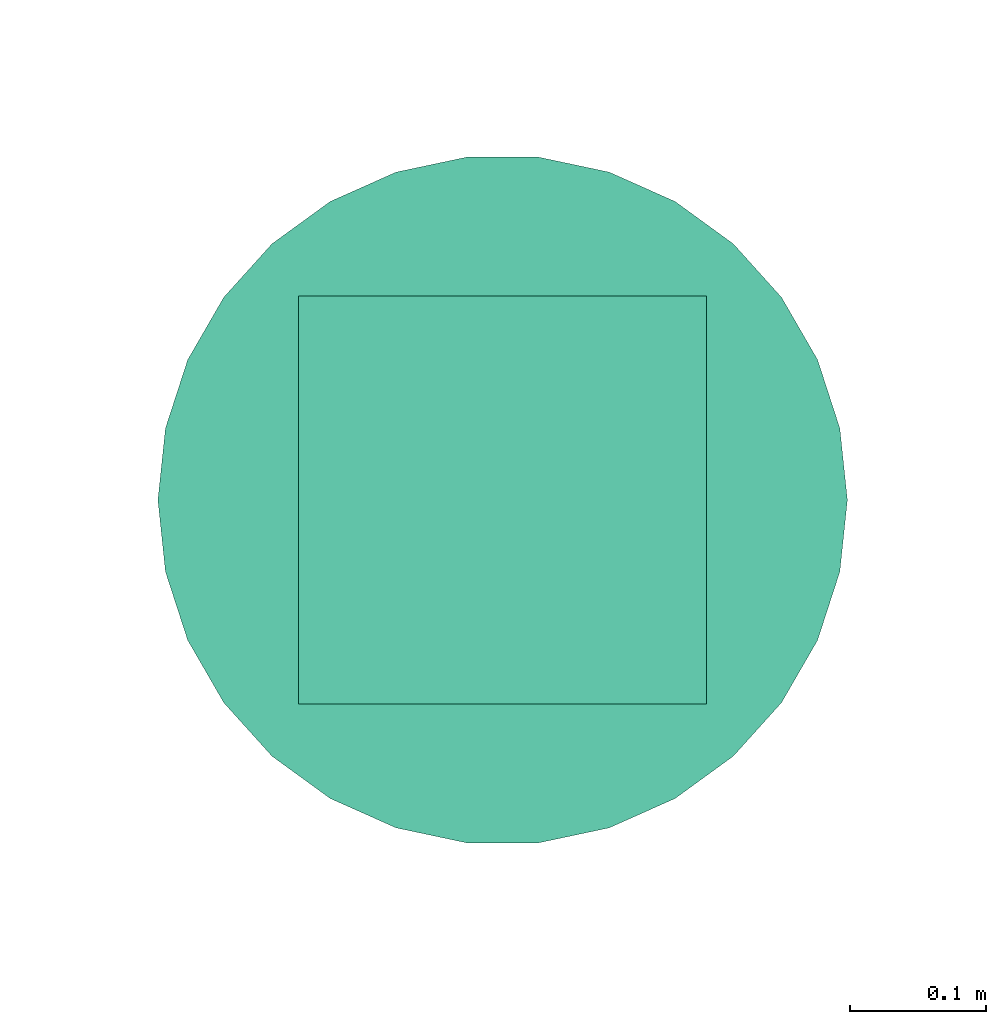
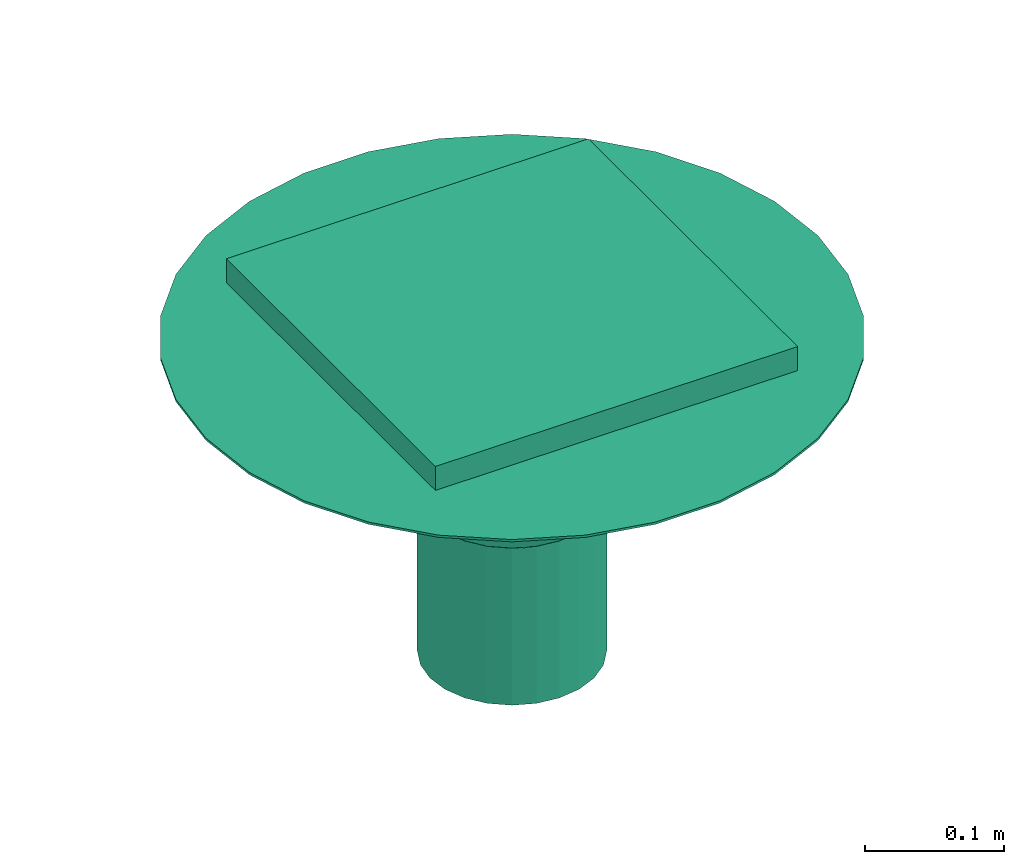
# One storey, part 13 of 13: 1 flow terminal.
"""IFC2X3 building model written with IfcOpenShell, lengths in millimetres."""

import ifcopenshell
import ifcopenshell.guid

model = None  # the IFC model being written
_history = None  # IfcOwnerHistory: only IFC2X3 demands one
_inside = {}  # id of a spatial element -> (the spatial element, [elements in it])
_under = {}  # id of a project, library or spatial element -> (it, [spatial elements below it])
_declared = {}  # id of a project -> (the project, [libraries it declares])
_typed = {}  # id of a type object -> (the type object, [elements of that type])
_made_of = {}  # id of a material, layer set ... -> (it, [elements and type objects made of it])


def new_model(schema):
    """Start an empty IFC model of exactly this schema.

    Asked for "IFC4X3", IfcOpenShell would pick the latest addendum, in which some entities
    have other attributes; the version numbers below select the first issue.
    IFC2X3 requires an IfcOwnerHistory on every rooted entity: one is made here for all.
    """
    global model, _history
    if schema == "IFC4X3":
        model = ifcopenshell.file(schema_version=(4, 3, 0, 0))
    else:
        model = ifcopenshell.file(schema=schema)
    _inside.clear()
    _under.clear()
    _declared.clear()
    _typed.clear()
    _made_of.clear()
    _history = None
    if model.schema == "IFC2X3":
        org = make("IfcOrganization", Name="unknown")
        user = make(
            "IfcPersonAndOrganization",
            ThePerson=make("IfcPerson", FamilyName="unknown"),
            TheOrganization=org,
        )
        app = make(
            "IfcApplication",
            ApplicationDeveloper=org,
            Version="unknown",
            ApplicationFullName="unknown",
            ApplicationIdentifier="unknown",
        )
        _history = make(
            "IfcOwnerHistory",
            OwningUser=user,
            OwningApplication=app,
            ChangeAction="ADDED",
            CreationDate=0,
        )
    return model


def make(cls, **values):
    """One entity of the class cls with the attributes given. An attribute that is None is left unset."""
    return model.create_entity(
        cls, **{name: value for name, value in values.items() if value is not None}
    )


def entity(cls, *values):
    """Any entity or typed value of the class cls, its attributes in the order of the schema. None: left unset."""
    e = model.create_entity(cls)
    for i, value in enumerate(values):
        if value is not None:
            e[i] = value
    return e


def rooted(cls, **values):
    """An entity with a GlobalId (a new one), such as an element, a storey or a relation."""
    return make(cls, GlobalId=ifcopenshell.guid.new(), OwnerHistory=_history, **values)


def si_unit(unit_type, name, prefix=None):
    """IfcSIUnit, for example si_unit("LENGTHUNIT", "METRE", prefix="MILLI")."""
    return make("IfcSIUnit", UnitType=unit_type, Prefix=prefix, Name=name)


def converted_unit(unit_type, name, factor, base, dimensions=None, offset=None):
    """IfcConversionBasedUnit, such as the inch: factor (a typed value) times the base unit."""
    return make(
        "IfcConversionBasedUnit"
        if offset is None
        else "IfcConversionBasedUnitWithOffset",
        ConversionOffset=offset,
        Dimensions=None
        if dimensions is None
        else entity("IfcDimensionalExponents", *dimensions),
        UnitType=unit_type,
        Name=name,
        ConversionFactor=make(
            "IfcMeasureWithUnit", ValueComponent=factor, UnitComponent=base
        ),
    )


def derived_unit(unit_type, elements):
    """IfcDerivedUnit: a product of units, each with its exponent."""
    return make(
        "IfcDerivedUnit",
        Elements=[
            make("IfcDerivedUnitElement", Unit=unit, Exponent=power)
            for unit, power in elements
        ],
        UnitType=unit_type,
    )


def assignment(units):
    """IfcUnitAssignment: the units of a project."""
    return None if units is None else make("IfcUnitAssignment", Units=units)


def point(xyz):
    """IfcCartesianPoint."""
    return None if xyz is None else make("IfcCartesianPoint", Coordinates=xyz)


def direction(xyz):
    """IfcDirection."""
    return None if xyz is None else make("IfcDirection", DirectionRatios=xyz)


def frame(location, z_axis=None, x_axis=None):
    """IfcAxis2Placement3D, a coordinate frame: its origin and axes. An axis left out is left unset."""
    return make(
        "IfcAxis2Placement3D",
        Location=point(location),
        Axis=direction(z_axis),
        RefDirection=direction(x_axis),
    )


def origin_with_axes():
    """The frame at (0, 0, 0) with the z axis (0, 0, 1) and the x axis (1, 0, 0) written out."""
    return frame((0.0, 0.0, 0.0), z_axis=(0.0, 0.0, 1.0), x_axis=(1.0, 0.0, 0.0))


def place(relative_to, where):
    """IfcLocalPlacement: puts the frame where relative to a parent placement (None: the world)."""
    return make(
        "IfcLocalPlacement", PlacementRelTo=relative_to, RelativePlacement=where
    )


def context(
    kind, dimensions, precision=None, world=None, true_north=None, identifier=None
):
    """IfcGeometricRepresentationContext, for example the 3D "Model" context."""
    return make(
        "IfcGeometricRepresentationContext",
        ContextIdentifier=identifier,
        ContextType=kind,
        CoordinateSpaceDimension=dimensions,
        Precision=precision,
        WorldCoordinateSystem=world,
        TrueNorth=true_north,
    )


def subcontext(parent, identifier, kind, view, scale=None):
    """IfcGeometricRepresentationSubContext, for example "Body" below "Model"."""
    return make(
        "IfcGeometricRepresentationSubContext",
        ContextIdentifier=identifier,
        ContextType=kind,
        ParentContext=parent,
        TargetScale=scale,
        TargetView=view,
    )


def project(units=None, contexts=None):
    """IfcProject with its units and contexts."""
    return rooted(
        "IfcProject",
        Name="project",
        RepresentationContexts=contexts,
        UnitsInContext=assignment(units),
    )


def spatial(cls, under=None, at=None, **own):
    """A site, building, storey or space (cls), placed at a placement, below another one or the project."""
    s = rooted(cls, ObjectPlacement=at, **own)
    if under is not None:
        _under.setdefault(under.id(), (under, []))[1].append(s)
    return s


def faces_of(points, faces, orient=None, outer=None):
    """IfcFace entities. A face is a list of loops; a loop is a list of indices into points, from 0.

    orient and outer hold one flag for each loop. By default every Orientation is true, the
    first loop of a face is its IfcFaceOuterBound and the others are IfcFaceBound.
    """
    made = []
    for i, loops in enumerate(faces):
        bounds = []
        for j, loop in enumerate(loops):
            is_outer = j == 0 if outer is None else outer[i][j]
            bounds.append(
                make(
                    "IfcFaceOuterBound" if is_outer else "IfcFaceBound",
                    Bound=make("IfcPolyLoop", Polygon=[points[k] for k in loop]),
                    Orientation=True if orient is None else orient[i][j],
                )
            )
        made.append(make("IfcFace", Bounds=bounds))
    return made


def open_shell(faces, orient=None, outer=None):
    """The faces of one IfcOpenShell. surface_model builds it on its shared points."""
    return ("IfcOpenShell", faces, orient, outer)


def surface_model(cls, points, shells):
    """IfcFaceBasedSurfaceModel or IfcShellBasedSurfaceModel (cls): surfaces that need not close."""
    shared = [point(p) for p in points]
    made = [make(c, CfsFaces=faces_of(shared, fs, o, b)) for c, fs, o, b in shells]
    if cls == "IfcFaceBasedSurfaceModel":
        return make(cls, FbsmFaces=made)
    return make(cls, SbsmBoundary=made)


def shape(context_of_items, identifier, shape_type, items):
    """IfcShapeRepresentation: the items that make up one representation, for example the "Body"."""
    return make(
        "IfcShapeRepresentation",
        ContextOfItems=context_of_items,
        RepresentationIdentifier=identifier,
        RepresentationType=shape_type,
        Items=items,
    )


def source(mapping_origin, context_of_items, identifier, shape_type, items):
    """IfcRepresentationMap: a shape defined once, which mapped items show again and again."""
    return make(
        "IfcRepresentationMap",
        MappingOrigin=mapping_origin,
        MappedRepresentation=shape(context_of_items, identifier, shape_type, items),
    )


def transform(
    local_origin,
    x_axis=None,
    y_axis=None,
    z_axis=None,
    scale=None,
    scale2=None,
    scale3=None,
    uniform=True,
):
    """IfcCartesianTransformationOperator3D, or its non-uniform kind. x_axis, y_axis, z_axis: its Axis1, 2, 3."""
    if uniform:
        return make(
            "IfcCartesianTransformationOperator3D",
            Axis1=direction(x_axis),
            Axis2=direction(y_axis),
            LocalOrigin=point(local_origin),
            Scale=scale,
            Axis3=direction(z_axis),
        )
    return make(
        "IfcCartesianTransformationOperator3DnonUniform",
        Axis1=direction(x_axis),
        Axis2=direction(y_axis),
        LocalOrigin=point(local_origin),
        Scale=scale,
        Axis3=direction(z_axis),
        Scale2=scale2,
        Scale3=scale3,
    )


def mapped(mapping_source, mapping_target):
    """IfcMappedItem: shows the shape of a source again, moved by a transform."""
    return make(
        "IfcMappedItem", MappingSource=mapping_source, MappingTarget=mapping_target
    )


def made_of(thing, what):
    """Note that an element or type object is made of a material, layer set ...; save() writes the relation."""
    if what is not None:
        _made_of.setdefault(what.id(), (what, []))[1].append(thing)
    return thing


def type_object(cls, material=None, **own):
    """A type object (cls), such as IfcWallType, which elements share."""
    return made_of(rooted(cls, **own), material)


def element(
    cls,
    number,
    at=None,
    inside=None,
    cuts=None,
    type_object=None,
    material=None,
    context=None,
    identifier="Body",
    shape_type=None,
    held_by="IfcProductDefinitionShape",
    body=None,
    shapes=None,
    **own,
):
    """One element of the class cls, such as IfcWall. Its Tag is "e" and its number.

    at: its placement. inside: the storey or other place that contains it. cuts: it is an
    opening in that element (IfcRelVoidsElement). A single representation is given by context,
    identifier, shape_type and body (its items); several are given by shapes. held_by: the class
    of the entity that holds the representations. save() writes the other relations.
    """
    e = rooted(cls, Tag="e%d" % number, ObjectPlacement=at, **own)
    if body is not None:
        shapes = [shape(context, identifier, shape_type, body)]
    if shapes is not None:
        e.Representation = make(held_by, Representations=shapes)
    if inside is not None:
        _inside.setdefault(inside.id(), (inside, []))[1].append(e)
    if cuts is not None:
        rooted(
            "IfcRelVoidsElement", RelatingBuildingElement=cuts, RelatedOpeningElement=e
        )
    if type_object is not None:
        _typed.setdefault(type_object.id(), (type_object, []))[1].append(e)
    return made_of(e, material)


def aggregate(whole, parts):
    """IfcRelAggregates: a whole, such as a stair, and the parts it consists of."""
    return rooted("IfcRelAggregates", RelatingObject=whole, RelatedObjects=parts)


def save(model, path):
    """Write the relations noted so far, then the file.

    IfcRelAggregates (storeys below a building ...), IfcRelContainedInSpatialStructure (elements
    in a storey), IfcRelDefinesByType, IfcRelAssociatesMaterial and IfcRelDeclares: one each for
    every whole, place, type object, material and project.
    """
    for whole, parts in _under.values():
        aggregate(whole, parts)
    for where, things in _inside.values():
        rooted(
            "IfcRelContainedInSpatialStructure",
            RelatedElements=things,
            RelatingStructure=where,
        )
    for kind, things in _typed.values():
        rooted("IfcRelDefinesByType", RelatedObjects=things, RelatingType=kind)
    for what, things in _made_of.values():
        rooted("IfcRelAssociatesMaterial", RelatedObjects=things, RelatingMaterial=what)
    for by, libraries in _declared.values():
        rooted("IfcRelDeclares", RelatingContext=by, RelatedDefinitions=libraries)
    model.write(path)


model = new_model("IFC2X3")

# Units and contexts
model_context = context("Model", 3, precision=0.01, world=frame((0.0, 4.29681676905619e-09, 0.0)), true_north=direction((4.01073788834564e-13, 1.0)))
plan_context = context("Plan", 3, precision=0.01, world=frame((0.0, 4.29681676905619e-09, 0.0)), true_north=direction((4.01073788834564e-13, 1.0)))
body_context = subcontext(model_context, "Body", "Model", "MODEL_VIEW")
ifc_project = project(units=[converted_unit("PLANEANGLEUNIT", "DEGREE", entity("IfcPositiveLengthMeasure", 0.0174532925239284), si_unit("PLANEANGLEUNIT", "RADIAN"), dimensions=[0, 0, 0, 0, 0, 0, 0]), si_unit("AREAUNIT", "SQUARE_METRE"), si_unit("LENGTHUNIT", "METRE", prefix="MILLI"), si_unit("MASSUNIT", "GRAM", prefix="KILO"), si_unit("POWERUNIT", "WATT"), si_unit("PRESSUREUNIT", "PASCAL"), si_unit("FORCEUNIT", "NEWTON", prefix="KILO"), si_unit("ELECTRICVOLTAGEUNIT", "VOLT"), si_unit("ELECTRICCURRENTUNIT", "AMPERE"), si_unit("THERMODYNAMICTEMPERATUREUNIT", "DEGREE_CELSIUS"), si_unit("TIMEUNIT", "SECOND"), si_unit("VOLUMEUNIT", "CUBIC_METRE"), derived_unit("LINEARVELOCITYUNIT", [(si_unit("LENGTHUNIT", "METRE"), 1), (si_unit("TIMEUNIT", "SECOND"), -1)]), derived_unit("VOLUMETRICFLOWRATEUNIT", [(si_unit("VOLUMEUNIT", "CUBIC_METRE"), 1), (si_unit("TIMEUNIT", "SECOND"), -1)]), derived_unit("THERMALTRANSMITTANCEUNIT", [(si_unit("POWERUNIT", "WATT"), 1), (si_unit("THERMODYNAMICTEMPERATUREUNIT", "KELVIN"), -1), (si_unit("AREAUNIT", "SQUARE_METRE"), -1)]), derived_unit("SOUNDPRESSUREUNIT", [(si_unit("PRESSUREUNIT", "PASCAL"), 1)])], contexts=[model_context, plan_context])

# Site, building, storey
site_placement = place(None, frame((0.0, -4.29681676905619e-09, 0.0), z_axis=(0.0, 0.0, 1.0), x_axis=(1.0, 0.0, 0.0)))
site = spatial("IfcSite", under=ifc_project, at=site_placement, Name="ENGM", CompositionType="ELEMENT")
building_placement = place(site_placement, frame((0.0, 4.29681676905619e-09, 0.0), z_axis=(0.0, 0.0, 1.0), x_axis=(1.0, 0.0, 0.0)))
building = spatial("IfcBuilding", under=site, at=building_placement, Name="TI", CompositionType="ELEMENT")
storey_placement = place(building_placement, frame((0.0, 0.0, 210900.0), z_axis=(0.0, 0.0, 1.0), x_axis=(1.0, 0.0, 0.0)))
storey = spatial("IfcBuildingStorey", under=building, at=storey_placement, Name="Nivå F", CompositionType="ELEMENT", Elevation=210900.0)

# Flow terminal
waste_terminal_type = type_object("IfcWasteTerminalType", Name="Industrial 407-110B 300x300", PredefinedType="NOTDEFINED")
shared_shape = source(origin_with_axes(), body_context, "Body", "SurfaceModel", [
    surface_model("IfcShellBasedSurfaceModel", [(-135.0, 135.0, -21.0), (-135.0, -135.0, -21.0), (135.0, -135.0, -21.0), (135.0, 135.0, -21.0), (135.0, 135.0, -30.0), (135.0, -135.0, -30.0), (-135.0, -135.0, -30.0), (-135.0, 135.0, -30.0), (-150.0, 150.0, 0.0), (-150.0, -150.0, 0.0), (150.0, -150.0, 0.0), (150.0, 150.0, 0.0), (150.0, 150.0, -21.0), (150.0, -150.0, -21.0), (-150.0, -150.0, -21.0), (-150.0, 150.0, -21.0), (-71.39665, -34.37672, -147.5), (-74.79306, -26.17704, -147.5), (-73.91036, -30.61467, -147.5), (0.0, 79.8, -147.5), (0.0, 80.0, -147.5), (-2.97354, 79.40853, -147.5), (-56.56854, 56.56854, -147.5), (-56.42712, 56.42712, -147.5), (-54.0477, 58.25292, -147.5), (-58.25292, 54.0477, -147.5), (-79.40853, 2.97354, -147.5), (-80.0, 0.0, -147.5), (-79.8, 0.0, -147.5), (-69.10883, -39.9, -147.5), (-58.25292, -54.0477, -147.5), (54.0477, 58.25292, -147.5), (56.42712, 56.42712, -147.5), (56.56854, 56.56854, -147.5), (77.08088, -20.65376, -147.5), (79.40853, -2.97354, -147.5), (74.79306, -26.17704, -147.5), (2.97354, 79.40853, -147.5), (58.25292, 54.0477, -147.5), (80.0, 0.0, -147.5), (79.40853, 2.97354, -147.5), (79.8, 0.0, -147.5), (71.39665, -34.37672, -147.5), (73.91036, -30.61467, -147.5), (-77.08088, -20.65376, -147.5), (-79.40853, -2.97354, -147.5), (-39.9, -69.10883, -147.5), (-34.37672, -71.39665, -147.5), (-54.0477, -58.25292, -147.5), (-56.56854, -56.56854, -147.5), (-56.42712, -56.42712, -147.5), (-20.65376, -77.08088, -147.5), (-2.97354, -79.40853, -147.5), (-26.17704, -74.79306, -147.5), (0.0, -80.0, -147.5), (0.0, -79.8, -147.5), (-30.61467, -73.91036, -147.5), (2.97354, -79.40853, -147.5), (58.25292, -54.0477, -147.5), (56.42712, -56.42712, -147.5), (56.56854, -56.56854, -147.5), (20.65376, -77.08088, -147.5), (26.17704, -74.79306, -147.5), (54.0477, -58.25292, -147.5), (34.37672, -71.39665, -147.5), (30.61467, -73.91036, -147.5), (39.9, -69.10883, -147.5), (69.10883, -39.9, -147.5), (-77.08088, 20.65376, -147.5), (-74.79306, 26.17704, -147.5), (-71.39665, 34.37672, -147.5), (-73.91036, 30.61467, -147.5), (-69.10883, 39.9, -147.5), (-39.9, 69.10883, -147.5), (-34.37672, 71.39665, -147.5), (-26.17704, 74.79306, -147.5), (-30.61467, 73.91036, -147.5), (-20.65376, 77.08088, -147.5), (20.65376, 77.08088, -147.5), (26.17704, 74.79306, -147.5), (34.37672, 71.39665, -147.5), (30.61467, 73.91036, -147.5), (39.9, 69.10883, -147.5), (69.10883, 39.9, -147.5), (71.39665, 34.37672, -147.5), (74.79306, 26.17704, -147.5), (73.91036, 30.61467, -147.5), (77.08088, 20.65376, -147.5), (60.60245, -29.34698, -167.5), (63.60385, -22.10096, -167.5), (62.82381, -26.02247, -167.5), (48.08326, 48.08326, -167.5), (47.94184, 47.94184, -167.5), (45.56241, 49.76764, -167.5), (49.76764, 45.56241, -167.5), (67.40853, 2.97354, -167.5), (68.0, 0.0, -167.5), (67.8, 0.0, -167.5), (58.71652, -33.9, -167.5), (49.76764, -45.56241, -167.5), (-65.48977, -17.54793, -167.5), (-67.40853, -2.97354, -167.5), (-63.60385, -22.10096, -167.5), (0.0, 67.8, -167.5), (-2.97354, 67.40853, -167.5), (0.0, 68.0, -167.5), (-49.76764, 45.56241, -167.5), (-48.08326, 48.08326, -167.5), (-47.94184, 47.94184, -167.5), (-45.56241, 49.76764, -167.5), (2.97354, 67.40853, -167.5), (-67.8, 0.0, -167.5), (-68.0, 0.0, -167.5), (-67.40853, 2.97354, -167.5), (-60.60245, -29.34698, -167.5), (-62.82381, -26.02247, -167.5), (67.40853, -2.97354, -167.5), (65.48977, -17.54793, -167.5), (33.9, -58.71652, -167.5), (29.34698, -60.60245, -167.5), (45.56241, -49.76764, -167.5), (48.08326, -48.08326, -167.5), (47.94184, -47.94184, -167.5), (17.54793, -65.48977, -167.5), (2.97354, -67.40853, -167.5), (22.10096, -63.60385, -167.5), (0.0, -67.8, -167.5), (0.0, -68.0, -167.5), (-2.97354, -67.40853, -167.5), (26.02247, -62.82381, -167.5), (-47.94184, -47.94184, -167.5), (-48.08326, -48.08326, -167.5), (-49.76764, -45.56241, -167.5), (-17.54793, -65.48977, -167.5), (-22.10096, -63.60385, -167.5), (-45.56241, -49.76764, -167.5), (-29.34698, -60.60245, -167.5), (-26.02247, -62.82381, -167.5), (-33.9, -58.71652, -167.5), (-58.71652, -33.9, -167.5), (65.48977, 17.54793, -167.5), (63.60385, 22.10096, -167.5), (60.60245, 29.34698, -167.5), (62.82381, 26.02247, -167.5), (58.71652, 33.9, -167.5), (33.9, 58.71652, -167.5), (29.34698, 60.60245, -167.5), (22.10096, 63.60385, -167.5), (26.02247, 62.82381, -167.5), (17.54793, 65.48977, -167.5), (-17.54793, 65.48977, -167.5), (-22.10096, 63.60385, -167.5), (-29.34698, 60.60245, -167.5), (-26.02247, 62.82381, -167.5), (-33.9, 58.71652, -167.5), (-58.71652, 33.9, -167.5), (-60.60245, 29.34698, -167.5), (-63.60385, 22.10096, -167.5), (-62.82381, 26.02247, -167.5), (-65.48977, 17.54793, -167.5), (-76.06601, -19.7775, -147.5), (-65.4119, -13.01124, -167.5), (-65.23945, -43.59161, -147.5), (-55.45353, -37.05287, -167.5), (-43.59161, -65.23945, -147.5), (-37.05287, -55.45353, -167.5), (43.59161, -65.23945, -147.5), (37.05287, -55.45353, -167.5), (64.65611, -16.81088, -167.5), (55.45353, -37.05287, -167.5), (-13.01124, -65.4119, -167.5), (65.23945, -43.59161, -147.5), (-15.30734, -76.95518, -147.5), (15.30734, -76.95518, -147.5), (76.95518, -15.30734, -147.5), (13.01124, -65.4119, -167.5), (76.06601, 19.7775, -147.5), (65.4119, 13.01124, -167.5), (65.23945, 43.59161, -147.5), (55.45353, 37.05287, -167.5), (43.59161, 65.23945, -147.5), (37.05287, 55.45353, -167.5), (-43.59161, 65.23945, -147.5), (-37.05287, 55.45353, -167.5), (-64.65611, 16.81088, -167.5), (-55.45353, 37.05287, -167.5), (13.01124, 65.4119, -167.5), (-65.23945, 43.59161, -147.5), (15.30734, 76.95518, -147.5), (-15.30734, 76.95518, -147.5), (-76.95518, 15.30734, -147.5), (-13.01124, 65.4119, -167.5), (126.75, -219.53744, -30.0), (-26.49796, -252.1113, -30.0), (78.33581, -241.09282, -30.0), (253.50001, 0.0, -30.0), (169.6246, -188.38721, -30.0), (247.96041, -52.70561, -30.0), (205.08581, -149.00356, -30.0), (231.58377, -103.10774, -30.0), (-126.75, -219.53744, -30.0), (-78.33581, -241.09282, -30.0), (26.49796, -252.1113, -30.0), (-169.6246, -188.38721, -30.0), (-205.08581, -149.00356, -30.0), (-231.58377, -103.10774, -30.0), (247.96041, 52.70561, -30.0), (-253.50001, 0.0, -30.0), (-247.96041, -52.70561, -30.0), (231.58377, 103.10774, -30.0), (205.08581, 149.00356, -30.0), (-26.49796, 252.1113, -30.0), (169.6246, 188.38721, -30.0), (126.75, 219.53744, -30.0), (78.33581, 241.09282, -30.0), (26.49796, 252.1113, -30.0), (-205.08581, 149.00356, -30.0), (-231.58377, 103.10774, -30.0), (-247.96041, 52.70561, -30.0), (-169.6246, 188.38721, -30.0), (-78.33581, 241.09282, -30.0), (-126.75, 219.53744, -30.0), (78.33581, 241.09282, -32.0), (-26.49796, 252.1113, -32.0), (26.49796, 252.1113, -32.0), (205.08581, 149.00356, -32.0), (126.75, 219.53744, -32.0), (231.58377, 103.10774, -32.0), (231.58377, -103.10774, -32.0), (-231.58377, -103.10774, -32.0), (-253.50001, 0.0, -32.0), (169.6246, 188.38721, -32.0), (-78.33581, 241.09282, -32.0), (-169.6246, 188.38721, -32.0), (-126.75, 219.53744, -32.0), (-231.58377, 103.10774, -32.0), (-205.08581, 149.00356, -32.0), (-247.96041, 52.70561, -32.0), (247.96041, -52.70561, -32.0), (247.96041, 52.70561, -32.0), (205.08581, -149.00356, -32.0), (169.6246, -188.38721, -32.0), (126.75, -219.53744, -32.0), (-126.75, -219.53744, -32.0), (78.33581, -241.09282, -32.0), (-26.49796, -252.1113, -32.0), (-169.6246, -188.38721, -32.0), (-205.08581, -149.00356, -32.0), (-247.96041, -52.70561, -32.0), (-78.33581, -241.09282, -32.0), (26.49796, -252.1113, -32.0), (253.50001, 0.0, -32.0), (17.5997, -65.68295, -289.99999), (34.0, -58.88973, -289.99999), (48.08326, -48.08326, -289.99999), (-58.88973, -34.0, -289.99999), (65.68295, -17.5997, -289.99999), (58.88973, -34.0, -289.99999), (65.68295, 17.5997, -289.99999), (-65.68295, -17.5997, -289.99999), (0.0, -68.0, -289.99999), (-34.0, -58.88973, -289.99999), (-17.5997, -65.68295, -289.99999), (-48.08326, -48.08326, -289.99999), (68.0, 0.0, -289.99999), (58.88973, 34.0, -289.99999), (48.08326, 48.08326, -289.99999), (0.0, 68.0, -289.99999), (17.5997, 65.68295, -289.99999), (34.0, 58.88973, -289.99999), (-34.0, 58.88973, -289.99999), (-68.0, 0.0, -289.99999), (-58.88973, 34.0, -289.99999), (-65.68295, 17.5997, -289.99999), (-48.08326, 48.08326, -289.99999), (-17.5997, 65.68295, -289.99999), (65.68295, 17.5997, -304.99999), (0.0, 68.0, -304.99999), (17.5997, 65.68295, -304.99999), (48.08326, 48.08326, -304.99999), (34.0, 58.88973, -304.99999), (58.88973, 34.0, -304.99999), (-34.0, 58.88973, -304.99999), (-58.88973, 34.0, -304.99999), (-48.08326, 48.08326, -304.99999), (-17.5997, 65.68295, -304.99999), (-68.0, 0.0, -304.99999), (-65.68295, 17.5997, -304.99999), (-65.68295, -17.5997, -304.99999), (65.68295, -17.5997, -304.99999), (48.08326, -48.08326, -304.99999), (58.88973, -34.0, -304.99999), (34.0, -58.88973, -304.99999), (17.5997, -65.68295, -304.99999), (-58.88973, -34.0, -304.99999), (-34.0, -58.88973, -304.99999), (-48.08326, -48.08326, -304.99999), (0.0, -68.0, -304.99999), (-17.5997, -65.68295, -304.99999), (68.0, 0.0, -304.99999), (34.0, -58.88973, -167.5), (17.5997, -65.68295, -167.5), (65.68295, -17.5997, -167.5), (58.88973, -34.0, -167.5), (-17.5997, -65.68295, -167.5), (-34.0, -58.88973, -167.5), (-58.88973, -34.0, -167.5), (-65.68295, -17.5997, -167.5), (65.68295, 17.5997, -167.5), (58.88973, 34.0, -167.5), (34.0, 58.88973, -167.5), (17.5997, 65.68295, -167.5), (-58.88973, 34.0, -167.5), (-65.68295, 17.5997, -167.5), (-17.5997, 65.68295, -167.5), (-34.0, 58.88973, -167.5), (33.9, 58.71652, -289.99999), (17.54793, 65.48977, -289.99999), (0.0, 67.8, -289.99999), (47.94184, 47.94184, -289.99999), (67.8, 0.0, -289.99999), (65.48977, 17.54793, -289.99999), (58.71652, 33.9, -289.99999), (-17.54793, 65.48977, -289.99999), (-33.9, 58.71652, -289.99999), (-47.94184, 47.94184, -289.99999), (-58.71652, 33.9, -289.99999), (-65.48977, 17.54793, -289.99999), (-67.8, 0.0, -289.99999), (65.48977, -17.54793, -289.99999), (58.71652, -33.9, -289.99999), (47.94184, -47.94184, -289.99999), (33.9, -58.71652, -289.99999), (17.54793, -65.48977, -289.99999), (0.0, -67.8, -289.99999), (-58.71652, -33.9, -289.99999), (-47.94184, -47.94184, -289.99999), (-65.48977, -17.54793, -289.99999), (-17.54793, -65.48977, -289.99999), (-33.9, -58.71652, -289.99999), (40.0, -69.28203, -30.1), (56.56854, -56.56854, -30.1), (39.9, -69.10883, -30.1), (20.65376, -77.08088, -30.1), (0.0, -79.8, -30.1), (20.70552, -77.27406, -30.1), (0.0, -80.0, -30.1), (56.42712, -56.42712, -30.1), (77.27406, -20.70552, -30.1), (79.8, 0.0, -30.1), (77.08088, -20.65376, -30.1), (80.0, 0.0, -30.1), (69.28203, -40.0, -30.1), (69.10883, -39.9, -30.1), (-20.65376, -77.08088, -30.1), (-20.70552, -77.27406, -30.1), (-39.9, -69.10883, -30.1), (-56.56854, -56.56854, -30.1), (-40.0, -69.28203, -30.1), (-56.42712, -56.42712, -30.1), (-69.10883, -39.9, -30.1), (-69.28203, -40.0, -30.1), (-77.08088, -20.65376, -30.1), (-77.27406, -20.70552, -30.1), (-79.8, 0.0, -30.1), (-80.0, 0.0, -30.1), (77.27406, 20.70552, -30.1), (77.08088, 20.65376, -30.1), (69.10883, 39.9, -30.1), (69.28203, 40.0, -30.1), (56.42712, 56.42712, -30.1), (56.56854, 56.56854, -30.1), (40.0, 69.28203, -30.1), (39.9, 69.10883, -30.1), (20.65376, 77.08088, -30.1), (20.70552, 77.27406, -30.1), (0.0, 79.8, -30.1), (0.0, 80.0, -30.1), (-69.28203, 40.0, -30.1), (-69.10883, 39.9, -30.1), (-56.56854, 56.56854, -30.1), (-56.42712, 56.42712, -30.1), (-77.27406, 20.70552, -30.1), (-77.08088, 20.65376, -30.1), (-20.65376, 77.08088, -30.1), (-20.70552, 77.27406, -30.1), (-39.9, 69.10883, -30.1), (-40.0, 69.28203, -30.1), (40.0, 69.28203, -147.5), (20.70552, 77.27406, -147.5), (77.27406, 20.70552, -147.5), (69.28203, 40.0, -147.5), (-20.70552, 77.27406, -147.5), (-40.0, 69.28203, -147.5), (-69.28203, 40.0, -147.5), (-77.27406, 20.70552, -147.5), (77.27406, -20.70552, -147.5), (69.28203, -40.0, -147.5), (40.0, -69.28203, -147.5), (20.70552, -77.27406, -147.5), (-69.28203, -40.0, -147.5), (-77.27406, -20.70552, -147.5), (-20.70552, -77.27406, -147.5), (-40.0, -69.28203, -147.5)], [open_shell([[[0, 1, 2]], [[2, 3, 0]], [[4, 5, 6]], [[6, 7, 4]], [[2, 1, 6]], [[6, 5, 2]], [[3, 2, 5]], [[5, 4, 3]], [[0, 3, 4]], [[4, 7, 0]], [[1, 0, 7]], [[7, 6, 1]], [[8, 9, 10]], [[10, 11, 8]], [[12, 13, 14]], [[14, 15, 12]], [[10, 9, 14]], [[14, 13, 10]], [[11, 10, 13]], [[13, 12, 11]], [[8, 11, 12]], [[12, 15, 8]], [[9, 8, 15]], [[15, 14, 9]], [[16, 17, 18]], [[19, 20, 21]], [[22, 23, 24]], [[22, 25, 23]], [[26, 27, 28]], [[29, 30, 16]], [[31, 32, 33]], [[34, 35, 36]], [[19, 37, 20]], [[38, 33, 32]], [[39, 40, 41]], [[36, 42, 43]], [[44, 17, 45]], [[28, 27, 45]], [[46, 47, 48]], [[30, 49, 50]], [[49, 48, 50]], [[51, 52, 53]], [[52, 54, 55]], [[53, 47, 56]], [[57, 55, 54]], [[58, 59, 60]], [[41, 35, 39]], [[61, 62, 57]], [[60, 59, 63]], [[64, 62, 65]], [[66, 63, 64]], [[67, 42, 58]], [[68, 26, 69]], [[69, 70, 71]], [[72, 70, 25]], [[73, 24, 74]], [[74, 75, 76]], [[77, 75, 21]], [[78, 37, 79]], [[79, 80, 81]], [[82, 80, 31]], [[83, 38, 84]], [[84, 85, 86]], [[87, 85, 40]], [[88, 89, 90]], [[91, 92, 93]], [[94, 92, 91]], [[95, 96, 97]], [[98, 99, 88]], [[100, 101, 102]], [[103, 104, 105]], [[106, 107, 108]], [[109, 108, 107]], [[103, 105, 110]], [[111, 112, 113]], [[102, 114, 115]], [[97, 96, 116]], [[117, 89, 116]], [[118, 119, 120]], [[99, 121, 122]], [[121, 120, 122]], [[123, 124, 125]], [[126, 127, 128]], [[124, 127, 126]], [[125, 119, 129]], [[130, 131, 132]], [[111, 101, 112]], [[133, 134, 128]], [[131, 130, 135]], [[136, 134, 137]], [[138, 135, 136]], [[139, 114, 132]], [[140, 95, 141]], [[141, 142, 143]], [[144, 142, 94]], [[145, 93, 146]], [[146, 147, 148]], [[149, 147, 110]], [[150, 104, 151]], [[151, 152, 153]], [[154, 152, 109]], [[155, 106, 156]], [[156, 157, 158]], [[159, 157, 113]], [[115, 160, 161]], [[162, 115, 163]], [[131, 164, 49]], [[164, 131, 165]], [[166, 129, 167]], [[115, 162, 18]], [[167, 121, 60]], [[27, 161, 160]], [[165, 56, 164]], [[163, 49, 162]], [[168, 43, 90]], [[169, 90, 43]], [[54, 170, 127]], [[171, 121, 169]], [[172, 137, 170]], [[129, 166, 65]], [[115, 18, 160]], [[121, 171, 60]], [[173, 54, 127]], [[161, 27, 112]], [[43, 168, 174]], [[65, 175, 129]], [[173, 127, 175]], [[165, 137, 56]], [[167, 60, 166]], [[169, 43, 171]], [[163, 131, 49]], [[96, 174, 168]], [[172, 56, 137]], [[175, 65, 173]], [[170, 54, 172]], [[96, 39, 174]], [[143, 176, 177]], [[178, 143, 179]], [[91, 180, 33]], [[180, 91, 181]], [[182, 153, 183]], [[143, 178, 86]], [[183, 107, 22]], [[39, 177, 176]], [[181, 81, 180]], [[179, 33, 178]], [[184, 71, 158]], [[185, 158, 71]], [[20, 186, 105]], [[187, 107, 185]], [[188, 148, 186]], [[153, 182, 76]], [[143, 86, 176]], [[107, 187, 22]], [[189, 20, 105]], [[177, 39, 96]], [[71, 184, 190]], [[76, 191, 153]], [[189, 105, 191]], [[181, 148, 81]], [[183, 22, 182]], [[185, 71, 187]], [[179, 91, 33]], [[112, 190, 184]], [[188, 81, 148]], [[191, 76, 189]], [[186, 20, 188]], [[112, 27, 190]], [[29, 139, 100]], [[44, 100, 111]], [[51, 133, 138]], [[46, 138, 130]], [[50, 130, 139]], [[44, 29, 100]], [[111, 28, 44]], [[138, 46, 51]], [[46, 130, 50]], [[139, 29, 50]], [[133, 51, 55]], [[55, 126, 133]], [[122, 118, 59]], [[118, 123, 66]], [[117, 98, 34]], [[67, 98, 122]], [[97, 117, 41]], [[126, 61, 123]], [[61, 66, 123]], [[55, 61, 126]], [[34, 98, 67]], [[59, 118, 66]], [[67, 122, 59]], [[34, 41, 117]], [[83, 144, 140]], [[87, 140, 97]], [[78, 149, 145]], [[82, 145, 92]], [[32, 92, 144]], [[87, 83, 140]], [[97, 41, 87]], [[145, 82, 78]], [[82, 92, 32]], [[144, 83, 32]], [[149, 78, 19]], [[19, 103, 149]], [[108, 154, 23]], [[154, 150, 73]], [[159, 155, 68]], [[72, 155, 108]], [[111, 159, 28]], [[103, 77, 150]], [[77, 73, 150]], [[19, 77, 103]], [[68, 155, 72]], [[23, 154, 73]], [[72, 108, 23]], [[68, 28, 159]], [[192, 193, 194]], [[195, 192, 196]], [[197, 195, 198]], [[198, 199, 197]], [[195, 196, 198]], [[200, 192, 195]], [[193, 192, 200]], [[200, 201, 193]], [[202, 194, 193]], [[203, 200, 204]], [[205, 204, 200]], [[205, 200, 206]], [[207, 208, 205]], [[206, 200, 195]], [[206, 209, 210]], [[205, 210, 211]], [[212, 213, 214]], [[210, 214, 211]], [[214, 210, 212]], [[211, 214, 215]], [[216, 217, 218]], [[218, 207, 216]], [[216, 207, 219]], [[211, 220, 219]], [[221, 219, 220]], [[207, 205, 219]], [[211, 219, 205]], [[206, 210, 205]], [[222, 223, 224]], [[225, 222, 226]], [[225, 227, 228]], [[229, 230, 222]], [[226, 231, 225]], [[225, 229, 222]], [[232, 223, 233]], [[233, 234, 232]], [[222, 233, 223]], [[235, 236, 237]], [[230, 237, 236]], [[236, 233, 230]], [[222, 230, 233]], [[238, 227, 239]], [[227, 238, 228]], [[225, 228, 240]], [[240, 241, 242]], [[225, 242, 243]], [[225, 240, 242]], [[242, 244, 245]], [[243, 246, 247]], [[247, 229, 243]], [[229, 248, 230]], [[229, 225, 243]], [[249, 243, 245]], [[242, 245, 243]], [[250, 245, 244]], [[238, 239, 251]], [[248, 208, 230]], [[205, 248, 229]], [[229, 247, 204]], [[200, 246, 243]], [[243, 249, 201]], [[247, 246, 203]], [[249, 245, 193]], [[204, 205, 229]], [[205, 208, 248]], [[208, 207, 230]], [[201, 200, 243]], [[203, 246, 200]], [[203, 204, 247]], [[201, 249, 193]], [[245, 202, 193]], [[250, 244, 194]], [[242, 241, 192]], [[194, 244, 242]], [[228, 238, 199]], [[198, 240, 228]], [[196, 241, 240]], [[197, 238, 251]], [[192, 194, 242]], [[241, 196, 192]], [[194, 202, 250]], [[196, 240, 198]], [[228, 199, 198]], [[197, 199, 238]], [[195, 197, 251]], [[250, 202, 245]], [[239, 206, 251]], [[209, 239, 227]], [[227, 225, 210]], [[213, 231, 226]], [[226, 222, 214]], [[225, 231, 212]], [[222, 224, 215]], [[210, 209, 227]], [[209, 206, 239]], [[206, 195, 251]], [[214, 213, 226]], [[212, 231, 213]], [[212, 210, 225]], [[214, 222, 215]], [[224, 211, 215]], [[220, 232, 234]], [[220, 223, 232]], [[221, 234, 233]], [[235, 237, 217]], [[216, 236, 235]], [[219, 233, 236]], [[218, 237, 230]], [[220, 211, 223]], [[219, 221, 233]], [[220, 234, 221]], [[216, 219, 236]], [[235, 217, 216]], [[218, 217, 237]], [[230, 207, 218]], [[223, 211, 224]], [[252, 253, 254]], [[255, 252, 254]], [[255, 254, 256]], [[256, 254, 257]], [[258, 259, 256]], [[260, 261, 262]], [[260, 252, 261]], [[261, 255, 263]], [[252, 255, 261]], [[256, 259, 255]], [[256, 264, 258]], [[258, 265, 266]], [[258, 266, 267]], [[268, 267, 266]], [[268, 266, 269]], [[258, 267, 270]], [[271, 272, 273]], [[272, 271, 270]], [[272, 270, 274]], [[259, 270, 271]], [[267, 275, 270]], [[270, 259, 258]], [[276, 277, 278]], [[279, 278, 280]], [[279, 281, 276]], [[279, 276, 278]], [[277, 276, 282]], [[282, 283, 284]], [[282, 285, 277]], [[283, 286, 287]], [[286, 283, 282]], [[276, 286, 282]], [[276, 288, 286]], [[288, 276, 289]], [[290, 289, 291]], [[290, 292, 293]], [[289, 290, 294]], [[293, 294, 290]], [[294, 295, 296]], [[294, 288, 289]], [[295, 297, 298]], [[295, 294, 293]], [[297, 295, 293]], [[289, 276, 299]], [[288, 259, 286]], [[294, 255, 288]], [[261, 296, 295]], [[294, 296, 263]], [[262, 295, 298]], [[288, 255, 259]], [[259, 271, 286]], [[262, 261, 295]], [[263, 296, 261]], [[263, 255, 294]], [[260, 262, 298]], [[298, 297, 260]], [[293, 252, 297]], [[292, 253, 293]], [[257, 290, 291]], [[292, 290, 254]], [[256, 291, 289]], [[292, 254, 253]], [[253, 252, 293]], [[264, 256, 289]], [[257, 291, 256]], [[257, 254, 290]], [[299, 264, 289]], [[297, 252, 260]], [[276, 258, 299]], [[281, 265, 276]], [[269, 279, 280]], [[281, 279, 266]], [[268, 280, 278]], [[276, 265, 258]], [[258, 264, 299]], [[268, 269, 280]], [[266, 279, 269]], [[266, 265, 281]], [[267, 268, 278]], [[278, 277, 267]], [[285, 275, 277]], [[282, 270, 285]], [[272, 284, 283]], [[282, 284, 274]], [[273, 283, 287]], [[282, 274, 270]], [[270, 275, 285]], [[271, 273, 287]], [[272, 283, 273]], [[272, 274, 284]], [[286, 271, 287]], [[277, 275, 267]], [[300, 121, 118]], [[300, 118, 123]], [[126, 301, 123]], [[301, 126, 127]], [[123, 301, 300]], [[118, 121, 122]], [[302, 97, 117]], [[97, 302, 96]], [[302, 117, 303]], [[122, 303, 98]], [[303, 122, 121]], [[98, 303, 117]], [[127, 133, 304]], [[304, 133, 138]], [[131, 305, 130]], [[138, 305, 304]], [[138, 130, 305]], [[127, 126, 133]], [[139, 306, 131]], [[306, 139, 100]], [[139, 131, 130]], [[307, 100, 111]], [[100, 307, 306]], [[307, 111, 112]], [[96, 308, 140]], [[140, 308, 144]], [[144, 309, 92]], [[309, 144, 308]], [[92, 309, 91]], [[91, 310, 145]], [[145, 310, 149]], [[149, 311, 103]], [[311, 149, 310]], [[103, 311, 105]], [[145, 92, 91]], [[312, 155, 107]], [[107, 155, 108]], [[155, 312, 313]], [[112, 159, 313]], [[313, 159, 155]], [[112, 111, 159]], [[150, 105, 314]], [[150, 314, 154]], [[108, 315, 107]], [[108, 154, 315]], [[315, 154, 314]], [[103, 105, 150]], [[140, 97, 96]], [[269, 266, 316]], [[269, 316, 317]], [[318, 268, 317]], [[268, 318, 267]], [[317, 268, 269]], [[316, 266, 319]], [[258, 320, 321]], [[320, 258, 264]], [[258, 321, 265]], [[319, 265, 322]], [[265, 319, 266]], [[322, 265, 321]], [[267, 323, 275]], [[275, 323, 324]], [[274, 270, 325]], [[324, 270, 275]], [[324, 325, 270]], [[267, 318, 323]], [[326, 272, 274]], [[272, 326, 327]], [[326, 274, 325]], [[273, 327, 328]], [[327, 273, 272]], [[273, 328, 271]], [[264, 256, 329]], [[329, 256, 330]], [[330, 257, 331]], [[257, 330, 256]], [[331, 257, 254]], [[254, 253, 332]], [[332, 253, 333]], [[333, 252, 334]], [[252, 333, 253]], [[334, 252, 260]], [[332, 331, 254]], [[255, 335, 263]], [[263, 335, 336]], [[335, 255, 259]], [[271, 337, 259]], [[259, 337, 335]], [[271, 328, 337]], [[338, 260, 262]], [[338, 262, 339]], [[336, 261, 263]], [[336, 339, 261]], [[261, 339, 262]], [[334, 260, 338]], [[329, 320, 264]], [[307, 259, 255]], [[263, 306, 255]], [[305, 261, 262]], [[263, 261, 131]], [[304, 262, 260]], [[259, 112, 271]], [[259, 307, 112]], [[255, 306, 307]], [[263, 131, 306]], [[305, 131, 261]], [[262, 304, 305]], [[260, 127, 304]], [[301, 252, 253]], [[254, 300, 253]], [[303, 257, 256]], [[254, 257, 121]], [[302, 256, 264]], [[252, 301, 127]], [[253, 300, 301]], [[254, 121, 300]], [[257, 303, 121]], [[302, 303, 256]], [[264, 96, 302]], [[252, 127, 260]], [[308, 264, 258]], [[310, 269, 268]], [[269, 91, 266]], [[311, 268, 267]], [[258, 309, 308]], [[308, 96, 264]], [[265, 91, 309]], [[265, 266, 91]], [[91, 269, 310]], [[268, 311, 310]], [[265, 309, 258]], [[267, 105, 311]], [[314, 275, 270]], [[274, 315, 270]], [[312, 272, 273]], [[274, 272, 107]], [[313, 273, 271]], [[275, 314, 105]], [[270, 315, 314]], [[274, 107, 315]], [[272, 312, 107]], [[313, 312, 273]], [[271, 112, 313]], [[275, 105, 267]], [[335, 337, 100]], [[335, 139, 336]], [[338, 339, 138]], [[130, 339, 336]], [[334, 338, 133]], [[328, 111, 337]], [[111, 100, 337]], [[100, 139, 335]], [[139, 130, 336]], [[339, 130, 138]], [[138, 133, 338]], [[133, 126, 334]], [[332, 333, 123]], [[332, 118, 331]], [[329, 330, 98]], [[122, 330, 331]], [[320, 329, 117]], [[126, 123, 333]], [[123, 118, 332]], [[118, 122, 331]], [[122, 98, 330]], [[329, 98, 117]], [[117, 97, 320]], [[334, 126, 333]], [[321, 320, 140]], [[317, 316, 145]], [[319, 92, 316]], [[318, 317, 149]], [[140, 144, 321]], [[320, 97, 140]], [[144, 92, 322]], [[92, 319, 322]], [[145, 316, 92]], [[145, 149, 317]], [[321, 144, 322]], [[149, 103, 318]], [[324, 323, 150]], [[324, 154, 325]], [[327, 326, 155]], [[108, 326, 325]], [[328, 327, 159]], [[103, 150, 323]], [[150, 154, 324]], [[154, 108, 325]], [[108, 155, 326]], [[327, 155, 159]], [[159, 111, 328]], [[318, 103, 323]], [[340, 341, 342]], [[340, 342, 343]], [[344, 345, 343]], [[345, 344, 346]], [[343, 345, 340]], [[342, 341, 347]], [[348, 349, 350]], [[349, 348, 351]], [[348, 350, 352]], [[347, 352, 353]], [[352, 347, 341]], [[353, 352, 350]], [[346, 354, 355]], [[355, 354, 356]], [[357, 358, 359]], [[356, 358, 355]], [[356, 359, 358]], [[346, 344, 354]], [[360, 361, 357]], [[361, 360, 362]], [[360, 357, 359]], [[363, 362, 364]], [[362, 363, 361]], [[363, 364, 365]], [[351, 366, 367]], [[367, 366, 368]], [[368, 369, 370]], [[369, 368, 366]], [[370, 369, 371]], [[371, 372, 373]], [[373, 372, 374]], [[374, 375, 376]], [[375, 374, 372]], [[376, 375, 377]], [[373, 370, 371]], [[378, 379, 380]], [[380, 379, 381]], [[379, 378, 382]], [[365, 383, 382]], [[382, 383, 379]], [[365, 364, 383]], [[384, 377, 385]], [[384, 385, 386]], [[381, 387, 380]], [[381, 386, 387]], [[387, 386, 385]], [[376, 377, 384]], [[367, 349, 351]], [[388, 33, 82]], [[388, 82, 78]], [[19, 389, 78]], [[389, 19, 20]], [[78, 389, 388]], [[82, 33, 32]], [[390, 41, 87]], [[41, 390, 39]], [[390, 87, 391]], [[32, 391, 83]], [[391, 32, 33]], [[83, 391, 87]], [[20, 77, 392]], [[392, 77, 73]], [[22, 393, 23]], [[73, 393, 392]], [[73, 23, 393]], [[20, 19, 77]], [[72, 394, 22]], [[394, 72, 68]], [[72, 22, 23]], [[395, 68, 28]], [[68, 395, 394]], [[395, 28, 27]], [[39, 396, 34]], [[34, 396, 67]], [[67, 397, 59]], [[397, 67, 396]], [[59, 397, 60]], [[60, 398, 66]], [[66, 398, 61]], [[61, 399, 55]], [[399, 61, 398]], [[55, 399, 54]], [[66, 59, 60]], [[400, 29, 49]], [[49, 29, 50]], [[29, 400, 401]], [[27, 44, 401]], [[401, 44, 29]], [[27, 28, 44]], [[51, 54, 402]], [[51, 402, 46]], [[50, 403, 49]], [[50, 46, 403]], [[403, 46, 402]], [[55, 54, 51]], [[34, 41, 39]], [[363, 401, 400]], [[49, 361, 400]], [[358, 403, 402]], [[49, 403, 357]], [[355, 402, 54]], [[401, 365, 27]], [[401, 363, 365]], [[400, 361, 363]], [[49, 357, 361]], [[358, 357, 403]], [[402, 355, 358]], [[54, 346, 355]], [[345, 399, 398]], [[60, 340, 398]], [[352, 397, 396]], [[60, 397, 341]], [[348, 396, 39]], [[399, 345, 346]], [[398, 340, 345]], [[60, 341, 340]], [[397, 352, 341]], [[348, 352, 396]], [[39, 351, 348]], [[399, 346, 54]], [[366, 39, 390]], [[369, 390, 391]], [[372, 388, 389]], [[375, 389, 20]], [[390, 369, 366]], [[366, 351, 39]], [[33, 371, 369]], [[33, 388, 371]], [[371, 388, 372]], [[389, 375, 372]], [[33, 369, 391]], [[20, 377, 375]], [[385, 392, 393]], [[22, 387, 393]], [[378, 394, 395]], [[22, 394, 380]], [[382, 395, 27]], [[392, 385, 377]], [[393, 387, 385]], [[22, 380, 387]], [[394, 378, 380]], [[382, 378, 395]], [[27, 365, 382]], [[392, 377, 20]], [[29, 44, 362]], [[29, 360, 50]], [[51, 46, 356]], [[359, 46, 50]], [[55, 51, 354]], [[28, 364, 44]], [[364, 362, 44]], [[362, 360, 29]], [[360, 359, 50]], [[46, 359, 356]], [[356, 354, 51]], [[354, 344, 55]], [[66, 61, 343]], [[66, 342, 59]], [[34, 67, 353]], [[347, 67, 59]], [[41, 34, 350]], [[344, 343, 61]], [[343, 342, 66]], [[342, 347, 59]], [[347, 353, 67]], [[34, 353, 350]], [[350, 349, 41]], [[55, 344, 61]], [[87, 41, 367]], [[83, 87, 368]], [[78, 82, 373]], [[19, 78, 374]], [[367, 368, 87]], [[41, 349, 367]], [[368, 370, 32]], [[370, 82, 32]], [[373, 82, 370]], [[373, 374, 78]], [[83, 368, 32]], [[374, 376, 19]], [[73, 77, 384]], [[73, 386, 23]], [[68, 72, 379]], [[381, 72, 23]], [[28, 68, 383]], [[376, 384, 77]], [[384, 386, 73]], [[386, 381, 23]], [[381, 379, 72]], [[68, 379, 383]], [[383, 364, 28]], [[19, 376, 77]]])]),
])
flow_terminal_placement = place(storey_placement, frame((609839.83711, 693872.5737, 20.0), z_axis=(0.0, 0.0, 1.0), x_axis=(1.0, 0.0, 0.0)))
element("IfcFlowTerminal", 1, at=flow_terminal_placement, inside=storey, type_object=waste_terminal_type, Name="Industrial 407-110B 300x300", context=body_context, shape_type="MappedRepresentation", body=[
    mapped(shared_shape, transform((0.0, 0.0, 0.0), scale=1.0)),
])

save(model, "model.ifc")
